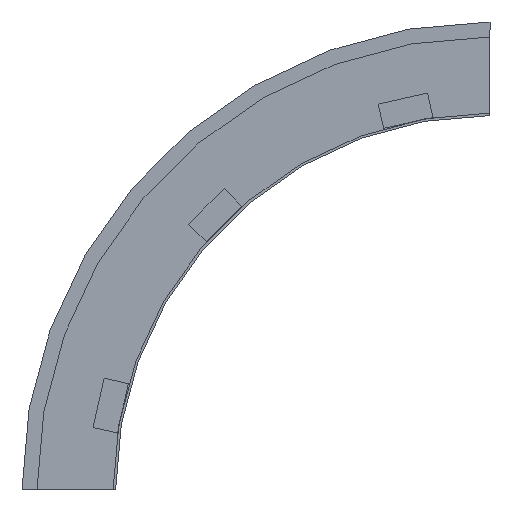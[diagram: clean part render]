
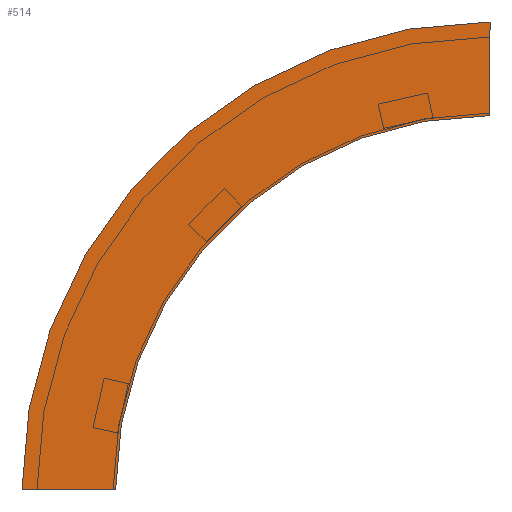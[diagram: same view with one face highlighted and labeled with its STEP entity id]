
A CAD part, left-side view. The second image highlights one B-rep face of the part: STEP entity #514.
In plain terms, the highlighted planar face has unit normal (-1, 0, 0) as drawn and (1, 0, 0) by its records, which use the part's own axes.
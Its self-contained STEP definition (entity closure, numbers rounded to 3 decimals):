
#1 = CARTESIAN_POINT ( 'NONE',  ( 0., 0., 0. ) ) ;
#2 = DIRECTION ( 'NONE',  ( 0., 1., 0. ) ) ;
#6 = AXIS2_PLACEMENT_3D ( 'NONE', #503, #446, #538 ) ;
#27 = EDGE_LOOP ( 'NONE', ( #392, #568, #448, #39 ) ) ;
#39 = ORIENTED_EDGE ( 'NONE', *, *, #139, .T. ) ;
#56 = DIRECTION ( 'NONE',  ( 0., 1., 0. ) ) ;
#70 = VERTEX_POINT ( 'NONE', #340 ) ;
#88 = EDGE_CURVE ( 'NONE', #491, #293, #132, .T. ) ;
#99 = VECTOR ( 'NONE', #2, 1000. ) ;
#132 = CIRCLE ( 'NONE', #370, 375. ) ;
#138 = CARTESIAN_POINT ( 'NONE',  ( 0., -300., 375. ) ) ;
#139 = EDGE_CURVE ( 'NONE', #385, #491, #541, .T. ) ;
#143 = AXIS2_PLACEMENT_3D ( 'NONE', #281, #516, #56 ) ;
#239 = EDGE_CURVE ( 'NONE', #385, #70, #432, .T. ) ;
#241 = CARTESIAN_POINT ( 'NONE',  ( 0., -300., 300. ) ) ;
#266 = PLANE ( 'NONE',  #6 ) ;
#278 = DIRECTION ( 'NONE',  ( 0., 0., 1. ) ) ;
#281 = CARTESIAN_POINT ( 'NONE',  ( 0., -300., 0. ) ) ;
#293 = VERTEX_POINT ( 'NONE', #138 ) ;
#310 = CARTESIAN_POINT ( 'NONE',  ( 0., 75., 0. ) ) ;
#321 = DIRECTION ( 'NONE',  ( 0., 1., 0. ) ) ;
#340 = CARTESIAN_POINT ( 'NONE',  ( 0., -300., 300. ) ) ;
#370 = AXIS2_PLACEMENT_3D ( 'NONE', #399, #395, #321 ) ;
#385 = VERTEX_POINT ( 'NONE', #1 ) ;
#392 = ORIENTED_EDGE ( 'NONE', *, *, #88, .T. ) ;
#395 = DIRECTION ( 'NONE',  ( 1., 0., 0. ) ) ;
#399 = CARTESIAN_POINT ( 'NONE',  ( 0., -300., 0. ) ) ;
#409 = CARTESIAN_POINT ( 'NONE',  ( 0., 0., 0. ) ) ;
#432 = CIRCLE ( 'NONE', #143, 300. ) ;
#446 = DIRECTION ( 'NONE',  ( 1., 0., 0. ) ) ;
#448 = ORIENTED_EDGE ( 'NONE', *, *, #239, .F. ) ;
#491 = VERTEX_POINT ( 'NONE', #310 ) ;
#503 = CARTESIAN_POINT ( 'NONE',  ( 0., 0., 0. ) ) ;
#505 = LINE ( 'NONE', #241, #572 ) ;
#514 = ADVANCED_FACE ( 'NONE', ( #580 ), #266, .T. ) ;
#516 = DIRECTION ( 'NONE',  ( 1., 0., 0. ) ) ;
#538 = DIRECTION ( 'NONE',  ( 0., 0., -1. ) ) ;
#541 = LINE ( 'NONE', #409, #99 ) ;
#568 = ORIENTED_EDGE ( 'NONE', *, *, #569, .F. ) ;
#569 = EDGE_CURVE ( 'NONE', #70, #293, #505, .T. ) ;
#572 = VECTOR ( 'NONE', #278, 1000. ) ;
#580 = FACE_OUTER_BOUND ( 'NONE', #27, .T. ) ;
